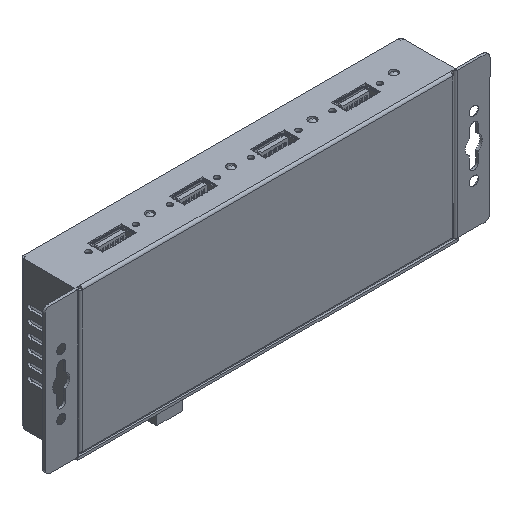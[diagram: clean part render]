
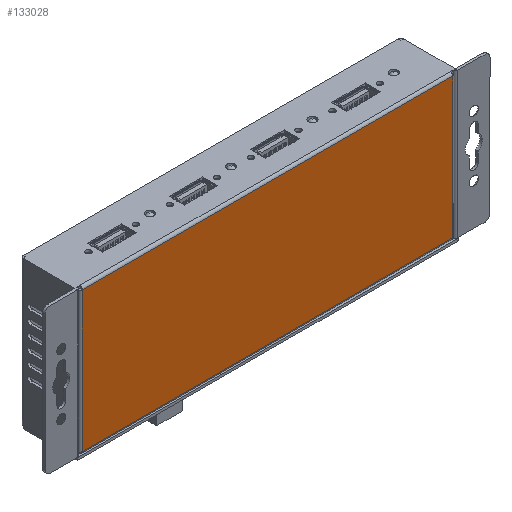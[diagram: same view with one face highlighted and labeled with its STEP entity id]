
A CAD part, isometric view. The second image highlights one B-rep face of the part: STEP entity #133028.
In plain terms, the highlighted planar face has unit normal (0, -1, 0).
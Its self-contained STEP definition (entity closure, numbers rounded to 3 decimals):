
#8776=FACE_OUTER_BOUND('',#15844,.T.);
#15844=EDGE_LOOP('',(#102939,#102940,#102941,#102942));
#28442=LINE('',#209009,#44826);
#28452=LINE('',#209037,#44836);
#28453=LINE('',#209043,#44837);
#28454=LINE('',#209044,#44838);
#44826=VECTOR('',#164920,10.);
#44836=VECTOR('',#164950,10.);
#44837=VECTOR('',#164959,10.);
#44838=VECTOR('',#164960,10.);
#59707=VERTEX_POINT('',#208991);
#59708=VERTEX_POINT('',#208995);
#59718=VERTEX_POINT('',#209036);
#59719=VERTEX_POINT('',#209042);
#75613=EDGE_CURVE('',#59707,#59708,#28442,.T.);
#75627=EDGE_CURVE('',#59718,#59707,#28452,.T.);
#75630=EDGE_CURVE('',#59708,#59719,#28453,.T.);
#75631=EDGE_CURVE('',#59719,#59718,#28454,.T.);
#102939=ORIENTED_EDGE('',*,*,#75613,.T.);
#102940=ORIENTED_EDGE('',*,*,#75630,.T.);
#102941=ORIENTED_EDGE('',*,*,#75631,.T.);
#102942=ORIENTED_EDGE('',*,*,#75627,.T.);
#127064=PLANE('',#142197);
#133028=ADVANCED_FACE('',(#8776),#127064,.T.);
#142197=AXIS2_PLACEMENT_3D('',#209041,#164957,#164958);
#164920=DIRECTION('',(1.,0.,0.));
#164950=DIRECTION('',(0.,0.,-1.));
#164957=DIRECTION('center_axis',(0.,-1.,0.));
#164958=DIRECTION('ref_axis',(1.,0.,0.));
#164959=DIRECTION('',(0.,0.,1.));
#164960=DIRECTION('',(-1.,0.,0.));
#208991=CARTESIAN_POINT('',(-3.8,-5.53,-55.48));
#208995=CARTESIAN_POINT('',(144.98,-5.53,-55.48));
#209009=CARTESIAN_POINT('',(33.395,-5.53,-55.48));
#209036=CARTESIAN_POINT('',(-3.8,-5.53,0.82));
#209037=CARTESIAN_POINT('',(-3.8,-5.53,-13.255));
#209041=CARTESIAN_POINT('Origin',(70.59,-5.53,-27.33));
#209042=CARTESIAN_POINT('',(144.98,-5.53,0.82));
#209043=CARTESIAN_POINT('',(144.98,-5.53,-41.91));
#209044=CARTESIAN_POINT('',(32.89,-5.53,0.82));
